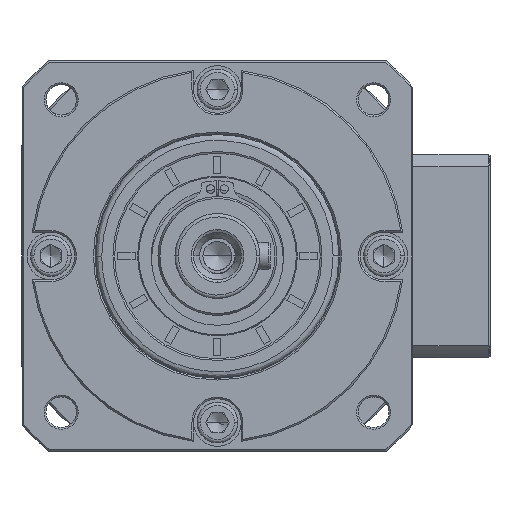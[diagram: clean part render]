
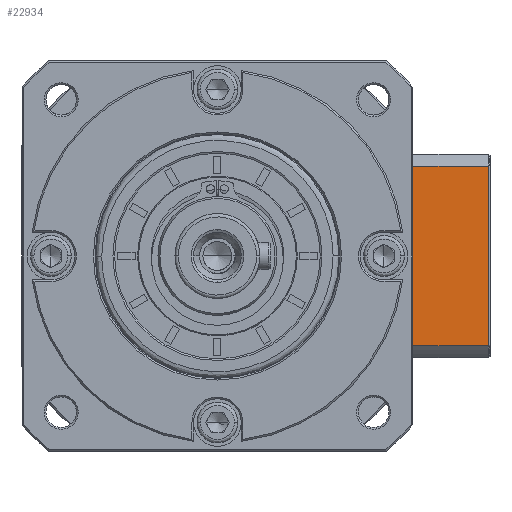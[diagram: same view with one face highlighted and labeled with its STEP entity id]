
A CAD part, left-side view. The second image highlights one B-rep face of the part: STEP entity #22934.
In plain terms, the highlighted planar face has unit normal (-1, 0, 0).
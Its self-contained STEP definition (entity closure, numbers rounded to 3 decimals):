
#913 = CARTESIAN_POINT ( 'NONE',  ( -85.266, -98.7, -44.332 ) ) ;
#2664 = EDGE_CURVE ( 'NONE', #130862, #35552, #147188, .T. ) ;
#3097 = CARTESIAN_POINT ( 'NONE',  ( -85.266, -94.45, -90.273 ) ) ;
#4360 = LINE ( 'NONE', #169285, #150747 ) ;
#8646 = CARTESIAN_POINT ( 'NONE',  ( -85.266, -93.7, -44.332 ) ) ;
#10224 = ORIENTED_EDGE ( 'NONE', *, *, #146141, .F. ) ;
#12643 = CARTESIAN_POINT ( 'NONE',  ( -85.266, -98.7, -97.247 ) ) ;
#14774 = EDGE_CURVE ( 'NONE', #154932, #46578, #93515, .T. ) ;
#14807 = DIRECTION ( 'NONE',  ( 0., 1., 0. ) ) ;
#15085 = CARTESIAN_POINT ( 'NONE',  ( -85.266, -94.448, -51.309 ) ) ;
#21059 = CARTESIAN_POINT ( 'NONE',  ( -85.266, -121.4, -100.789 ) ) ;
#21436 = DIRECTION ( 'NONE',  ( 0., 1., 0. ) ) ;
#22934 = ADVANCED_FACE ( 'NONE', ( #94859 ), #69984, .F. ) ;
#26387 = CARTESIAN_POINT ( 'NONE',  ( -85.266, -120.9, -44.332 ) ) ;
#32776 = ORIENTED_EDGE ( 'NONE', *, *, #64908, .T. ) ;
#35552 = VERTEX_POINT ( 'NONE', #56237 ) ;
#36511 = DIRECTION ( 'NONE',  ( 0., -1., 0. ) ) ;
#36550 = DIRECTION ( 'NONE',  ( 1., 0., 0. ) ) ;
#42190 = ORIENTED_EDGE ( 'NONE', *, *, #76704, .F. ) ;
#46449 = CARTESIAN_POINT ( 'NONE',  ( -85.266, -97.798, -95.884 ) ) ;
#46578 = VERTEX_POINT ( 'NONE', #26387 ) ;
#50040 = EDGE_LOOP ( 'NONE', ( #175776, #148013, #10224, #125879, #125429, #32776, #42190, #143153 ) ) ;
#52536 = EDGE_CURVE ( 'NONE', #53402, #175104, #87454, .T. ) ;
#53402 = VERTEX_POINT ( 'NONE', #82255 ) ;
#56237 = CARTESIAN_POINT ( 'NONE',  ( -85.266, -93.7, -52.761 ) ) ;
#57527 = CARTESIAN_POINT ( 'NONE',  ( -85.266, -79.2, -88.817 ) ) ;
#60337 = CARTESIAN_POINT ( 'NONE',  ( -85.266, -79.2, -100.789 ) ) ;
#62006 = LINE ( 'NONE', #60337, #95290 ) ;
#62086 = CARTESIAN_POINT ( 'NONE',  ( -85.266, -120.9, -97.247 ) ) ;
#64908 = EDGE_CURVE ( 'NONE', #82074, #146529, #62006, .T. ) ;
#68338 = VECTOR ( 'NONE', #14807, 1000. ) ;
#69984 = PLANE ( 'NONE',  #107887 ) ;
#73610 = EDGE_CURVE ( 'NONE', #154932, #175104, #105920, .T. ) ;
#76704 = EDGE_CURVE ( 'NONE', #53402, #146529, #100195, .T. ) ;
#82074 = VERTEX_POINT ( 'NONE', #128060 ) ;
#82225 = CARTESIAN_POINT ( 'NONE',  ( -85.266, -98.7, -44.332 ) ) ;
#82255 = CARTESIAN_POINT ( 'NONE',  ( -85.266, -93.7, -88.817 ) ) ;
#85032 = DIRECTION ( 'NONE',  ( 0., -1., 0. ) ) ;
#87170 = LINE ( 'NONE', #8646, #162567 ) ;
#87454 = B_SPLINE_CURVE_WITH_KNOTS ( 'NONE', 3,
 ( #117097, #3097, #115897, #131346, #46449, #145571 ),
 .UNSPECIFIED., .F., .F.,
 ( 4, 2, 4 ),
 ( 0.1, 0.104, 0.109 ),
 .UNSPECIFIED. ) ;
#93515 = LINE ( 'NONE', #138801, #168944 ) ;
#94859 = FACE_OUTER_BOUND ( 'NONE', #50040, .T. ) ;
#95290 = VECTOR ( 'NONE', #173687, 1000. ) ;
#100076 = CARTESIAN_POINT ( 'NONE',  ( -85.266, -95.251, -49.878 ) ) ;
#100195 = LINE ( 'NONE', #120606, #137905 ) ;
#105920 = LINE ( 'NONE', #141906, #68338 ) ;
#107887 = AXIS2_PLACEMENT_3D ( 'NONE', #21059, #36550, #135721 ) ;
#114283 = CARTESIAN_POINT ( 'NONE',  ( -85.266, -93.7, -52.761 ) ) ;
#115897 = CARTESIAN_POINT ( 'NONE',  ( -85.266, -95.25, -91.699 ) ) ;
#117097 = CARTESIAN_POINT ( 'NONE',  ( -85.266, -93.7, -88.817 ) ) ;
#120606 = CARTESIAN_POINT ( 'NONE',  ( -85.266, -93.7, -88.817 ) ) ;
#125429 = ORIENTED_EDGE ( 'NONE', *, *, #143505, .F. ) ;
#125879 = ORIENTED_EDGE ( 'NONE', *, *, #2664, .T. ) ;
#128060 = CARTESIAN_POINT ( 'NONE',  ( -85.266, -79.2, -52.761 ) ) ;
#130862 = VERTEX_POINT ( 'NONE', #82225 ) ;
#131346 = CARTESIAN_POINT ( 'NONE',  ( -85.266, -96.925, -94.504 ) ) ;
#135721 = DIRECTION ( 'NONE',  ( 0., 1., 0. ) ) ;
#137905 = VECTOR ( 'NONE', #21436, 1000. ) ;
#138801 = CARTESIAN_POINT ( 'NONE',  ( -85.266, -120.9, -100.789 ) ) ;
#141906 = CARTESIAN_POINT ( 'NONE',  ( -85.266, -93.7, -97.247 ) ) ;
#143153 = ORIENTED_EDGE ( 'NONE', *, *, #52536, .T. ) ;
#143505 = EDGE_CURVE ( 'NONE', #82074, #35552, #4360, .T. ) ;
#145571 = CARTESIAN_POINT ( 'NONE',  ( -85.266, -98.7, -97.247 ) ) ;
#146141 = EDGE_CURVE ( 'NONE', #130862, #46578, #87170, .T. ) ;
#146529 = VERTEX_POINT ( 'NONE', #57527 ) ;
#147188 = B_SPLINE_CURVE_WITH_KNOTS ( 'NONE', 3,
 ( #913, #156439, #170688, #100076, #15085, #114283 ),
 .UNSPECIFIED., .F., .F.,
 ( 4, 2, 4 ),
 ( 0.052, 0.057, 0.062 ),
 .UNSPECIFIED. ) ;
#148013 = ORIENTED_EDGE ( 'NONE', *, *, #14774, .T. ) ;
#150747 = VECTOR ( 'NONE', #85032, 1000. ) ;
#153034 = DIRECTION ( 'NONE',  ( 0., 0., 1. ) ) ;
#154932 = VERTEX_POINT ( 'NONE', #62086 ) ;
#156439 = CARTESIAN_POINT ( 'NONE',  ( -85.266, -97.8, -45.692 ) ) ;
#162567 = VECTOR ( 'NONE', #36511, 1000. ) ;
#168944 = VECTOR ( 'NONE', #153034, 1000. ) ;
#169285 = CARTESIAN_POINT ( 'NONE',  ( -85.266, -93.7, -52.761 ) ) ;
#170688 = CARTESIAN_POINT ( 'NONE',  ( -85.266, -96.927, -47.07 ) ) ;
#173687 = DIRECTION ( 'NONE',  ( 0., 0., -1. ) ) ;
#175104 = VERTEX_POINT ( 'NONE', #12643 ) ;
#175776 = ORIENTED_EDGE ( 'NONE', *, *, #73610, .F. ) ;
